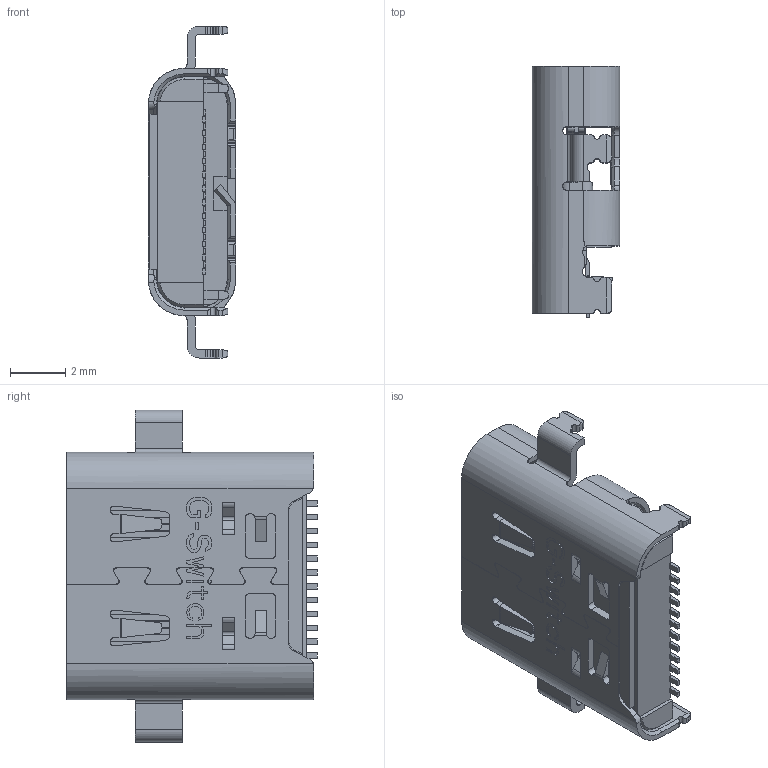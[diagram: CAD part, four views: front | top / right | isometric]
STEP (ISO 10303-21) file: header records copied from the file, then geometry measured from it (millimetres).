
FILE_DESCRIPTION((''),'2;1');
FILE_NAME('80USB_TYPE_C_3_1_SMT_CL_0_5MM_L_ASM','2023-04-12T',('Administrator'),(''),'PRO/ENGINEER BY PARAMETRIC TECHNOLOGY CORPORATION, 2013040','PRO/ENGINEER BY PARAMETRIC TECHNOLOGY CORPORATION, 2013040','');
FILE_SCHEMA(('CONFIG_CONTROL_DESIGN'));
Length unit declared in the file: millimetre
Products named in the file (24): MANIFOLD_SOLID_BREP_206953; MANIFOLD_SOLID_BREP_206808; MANIFOLD_SOLID_BREP_208690; MANIFOLD_SOLID_BREP_208219; MANIFOLD_SOLID_BREP_207889; MANIFOLD_SOLID_BREP_207243; MANIFOLD_SOLID_BREP_207744; MANIFOLD_SOLID_BREP_208404; MANIFOLD_SOLID_BREP_208034; MANIFOLD_SOLID_BREP_208976; MANIFOLD_SOLID_BREP_207098; MANIFOLD_SOLID_BREP_206552; MANIFOLD_SOLID_BREP_207599; MANIFOLD_SOLID_BREP_207421; MAIN-HOUSING_2_ASM_ASM; MANIFOLD_SOLID_BREP_41400; MANIFOLD_SOLID_BREP_42389; BOT-TERMINAL_1_ASM_ASM; BOT_HOUSING_ASM_3_ASM_ASM; SJ115996-MAIN_HOUSING_ASM_4_ASM_ASM; SJ115996-9_07_ASM_1_ASM_ASM; HSG_AF0; B80_AF0_ASM; 80USB_TYPE_C_3_1_SMT_CL_0_5MM_L_ASM
Assembly tree (23 placements, depth 7):
  80USB_TYPE_C_3_1_SMT_CL_0_5MM_L_ASM
    B80_AF0_ASM
      SJ115996-9_07_ASM_1_ASM_ASM
        SJ115996-MAIN_HOUSING_ASM_4_ASM_ASM
          MAIN-HOUSING_2_ASM_ASM
            MANIFOLD_SOLID_BREP_206953
            MANIFOLD_SOLID_BREP_206808
            MANIFOLD_SOLID_BREP_208690
            MANIFOLD_SOLID_BREP_208219
            MANIFOLD_SOLID_BREP_207889
            MANIFOLD_SOLID_BREP_207243
            MANIFOLD_SOLID_BREP_207744
            MANIFOLD_SOLID_BREP_208404
            MANIFOLD_SOLID_BREP_208034
            MANIFOLD_SOLID_BREP_208976
            MANIFOLD_SOLID_BREP_207098
            MANIFOLD_SOLID_BREP_206552
            MANIFOLD_SOLID_BREP_207599
            MANIFOLD_SOLID_BREP_207421
          BOT_HOUSING_ASM_3_ASM_ASM
            BOT-TERMINAL_1_ASM_ASM
              MANIFOLD_SOLID_BREP_41400
              MANIFOLD_SOLID_BREP_42389
      HSG_AF0
Bounding box: 3.16 x 9.07 x 12 mm (x, y, z)
Volume: 114.5 mm3; surface area: 524.9 mm2
Topology: 11 solids, 11 shells, 1311 faces, 3809 edges, 2506 vertices
Faces by surface type: plane 960, cylinder 303, cone 30, torus 16, bspline 2
Entity records: 44096 total; most frequent: CARTESIAN_POINT 8589, ORIENTED_EDGE 7618, DIRECTION 7036, EDGE_CURVE 3809, VECTOR 3002, LINE 3002, VERTEX_POINT 2506, AXIS2_PLACEMENT_3D 2017
